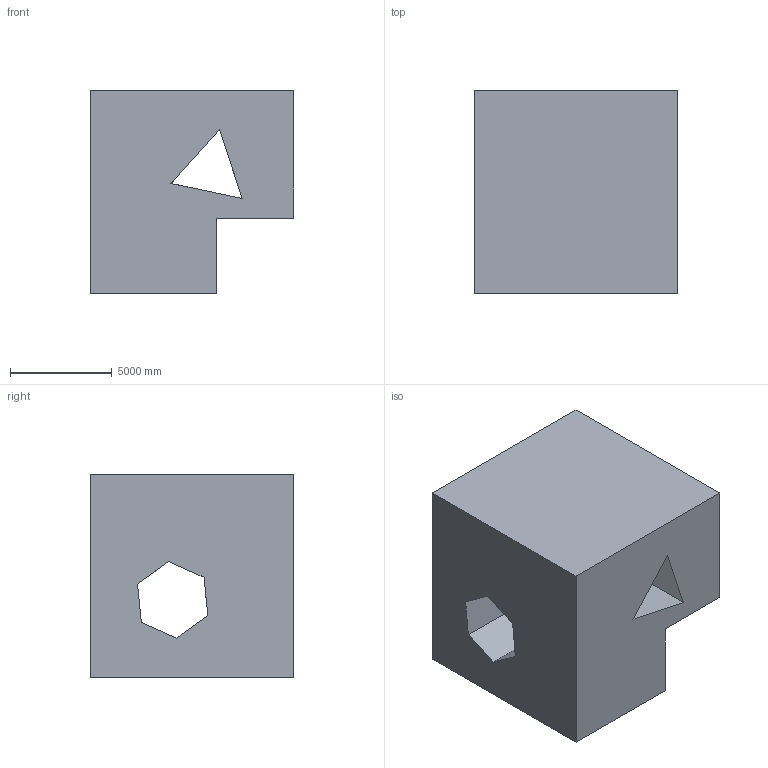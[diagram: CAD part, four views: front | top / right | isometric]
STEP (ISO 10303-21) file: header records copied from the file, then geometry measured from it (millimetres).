
FILE_DESCRIPTION (( 'STEP AP203' ), '1' );
FILE_NAME ('1217.STEP', '2022-08-18T13:14:12', ( 'user' ), ( '' ), 'SwSTEP 2.0', 'SolidWorks 2021', '' );
FILE_SCHEMA (( 'CONFIG_CONTROL_DESIGN' ));
Length unit declared in the file: centimetre
Products named in the file (1): 1217
Bounding box: 10000 x 10000 x 10000 mm (x, y, z)
Volume: 729303338300.1 mm3; surface area: 711090161.8 mm2
Topology: 1 solids, 1 shells, 20 faces, 63 edges, 42 vertices
Faces by surface type: plane 20
Entity records: 776 total; most frequent: CARTESIAN_POINT 126, ORIENTED_EDGE 126, DIRECTION 105, LINE 63, VECTOR 63, EDGE_CURVE 63, VERTEX_POINT 42, EDGE_LOOP 23
